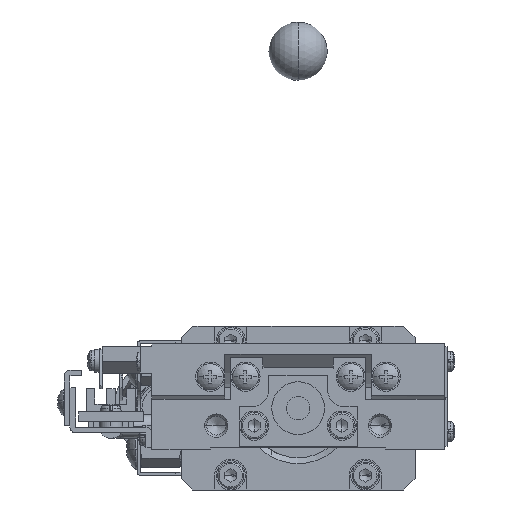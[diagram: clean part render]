
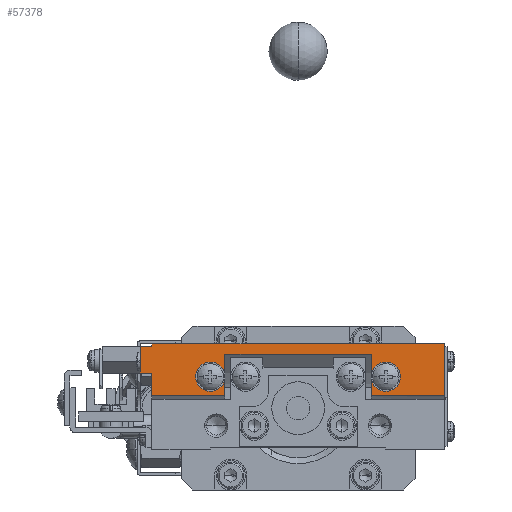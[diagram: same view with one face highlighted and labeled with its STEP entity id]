
A CAD part, left-side view. The second image highlights one B-rep face of the part: STEP entity #57378.
In plain terms, the highlighted planar face has unit normal (-1, 0, 0).
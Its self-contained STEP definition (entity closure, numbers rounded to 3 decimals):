
#1106 = LINE ( 'NONE', #28072, #57460 ) ;
#1721 = ORIENTED_EDGE ( 'NONE', *, *, #13536, .F. ) ;
#1806 = DIRECTION ( 'NONE',  ( 0., -1., 0. ) ) ;
#2682 = CARTESIAN_POINT ( 'NONE',  ( -58.014, 115.702, 120.81 ) ) ;
#2795 = ORIENTED_EDGE ( 'NONE', *, *, #6414, .F. ) ;
#2864 = DIRECTION ( 'NONE',  ( 0., -1., 0. ) ) ;
#3080 = VECTOR ( 'NONE', #1806, 1000. ) ;
#3099 = CARTESIAN_POINT ( 'NONE',  ( -58.014, 63.702, 125.81 ) ) ;
#3290 = ORIENTED_EDGE ( 'NONE', *, *, #28432, .F. ) ;
#3549 = DIRECTION ( 'NONE',  ( 0., -1., 0. ) ) ;
#4867 = AXIS2_PLACEMENT_3D ( 'NONE', #30090, #23915, #48368 ) ;
#5015 = VECTOR ( 'NONE', #32494, 1000. ) ;
#5205 = CARTESIAN_POINT ( 'NONE',  ( -58.014, 101.202, 124.029 ) ) ;
#5606 = VERTEX_POINT ( 'NONE', #15975 ) ;
#5914 = DIRECTION ( 'NONE',  ( 0., -1., 0. ) ) ;
#5993 = CIRCLE ( 'NONE', #9620, 2.5 ) ;
#6305 = LINE ( 'NONE', #68238, #24300 ) ;
#6414 = EDGE_CURVE ( 'NONE', #75526, #14244, #56818, .T. ) ;
#6808 = CARTESIAN_POINT ( 'NONE',  ( -58.014, 71.202, 120.174 ) ) ;
#8447 = CARTESIAN_POINT ( 'NONE',  ( -58.014, 115.702, 125.31 ) ) ;
#8537 = EDGE_CURVE ( 'NONE', #67537, #62705, #6305, .T. ) ;
#9563 = CIRCLE ( 'NONE', #10973, 2.5 ) ;
#9620 = AXIS2_PLACEMENT_3D ( 'NONE', #45377, #51844, #20105 ) ;
#9931 = CARTESIAN_POINT ( 'NONE',  ( -58.014, 76.202, 116.895 ) ) ;
#10973 = AXIS2_PLACEMENT_3D ( 'NONE', #13009, #45568, #20560 ) ;
#13009 = CARTESIAN_POINT ( 'NONE',  ( -58.014, 103.702, 120.174 ) ) ;
#13078 = VERTEX_POINT ( 'NONE', #6808 ) ;
#13130 = LINE ( 'NONE', #48398, #14199 ) ;
#13518 = EDGE_LOOP ( 'NONE', ( #3290, #38755, #27284, #66766, #1721, #18286, #77018, #21545, #57580, #2795, #80681, #41375, #72600, #37179, #22449, #79665, #44047, #60702 ) ) ;
#13536 = EDGE_CURVE ( 'NONE', #13078, #58002, #5993, .T. ) ;
#13994 = VECTOR ( 'NONE', #63559, 1000. ) ;
#14199 = VECTOR ( 'NONE', #36319, 1000. ) ;
#14244 = VERTEX_POINT ( 'NONE', #3099 ) ;
#14700 = LINE ( 'NONE', #54698, #37930 ) ;
#14929 = FACE_OUTER_BOUND ( 'NONE', #13518, .T. ) ;
#15089 = DIRECTION ( 'NONE',  ( -1., 0., 0. ) ) ;
#15383 = CARTESIAN_POINT ( 'NONE',  ( -58.014, 113.702, 125.31 ) ) ;
#15917 = VECTOR ( 'NONE', #2864, 1000. ) ;
#15975 = CARTESIAN_POINT ( 'NONE',  ( -58.014, 113.702, 116.895 ) ) ;
#17493 = EDGE_CURVE ( 'NONE', #37033, #58002, #1106, .T. ) ;
#17532 = CARTESIAN_POINT ( 'NONE',  ( -58.014, 76.202, 124.029 ) ) ;
#17996 = LINE ( 'NONE', #56823, #13994 ) ;
#18286 = ORIENTED_EDGE ( 'NONE', *, *, #25263, .F. ) ;
#18310 = EDGE_CURVE ( 'NONE', #59058, #37033, #81415, .T. ) ;
#20105 = DIRECTION ( 'NONE',  ( 0., -1., 0. ) ) ;
#20560 = DIRECTION ( 'NONE',  ( 0., -1., 0. ) ) ;
#20917 = EDGE_CURVE ( 'NONE', #5606, #67537, #14700, .T. ) ;
#21545 = ORIENTED_EDGE ( 'NONE', *, *, #30198, .T. ) ;
#21552 = DIRECTION ( 'NONE',  ( 0., -1., 0. ) ) ;
#22009 = CARTESIAN_POINT ( 'NONE',  ( -58.014, 70.702, 116.895 ) ) ;
#22449 = ORIENTED_EDGE ( 'NONE', *, *, #73814, .T. ) ;
#23915 = DIRECTION ( 'NONE',  ( -1., 0., 0. ) ) ;
#24115 = LINE ( 'NONE', #51294, #5015 ) ;
#24300 = VECTOR ( 'NONE', #68515, 1000. ) ;
#24419 = EDGE_CURVE ( 'NONE', #81821, #41858, #43490, .T. ) ;
#25263 = EDGE_CURVE ( 'NONE', #58002, #13078, #70348, .T. ) ;
#26927 = CARTESIAN_POINT ( 'NONE',  ( -58.014, 113.702, 125.81 ) ) ;
#27284 = ORIENTED_EDGE ( 'NONE', *, *, #18310, .T. ) ;
#27707 = VECTOR ( 'NONE', #42512, 1000. ) ;
#28072 = CARTESIAN_POINT ( 'NONE',  ( -58.014, 76.202, 125.81 ) ) ;
#28432 = EDGE_CURVE ( 'NONE', #62705, #42426, #41737, .T. ) ;
#28527 = VECTOR ( 'NONE', #79097, 1000. ) ;
#29482 = EDGE_CURVE ( 'NONE', #39585, #49542, #24115, .T. ) ;
#29743 = DIRECTION ( 'NONE',  ( 0., 0., 1. ) ) ;
#30090 = CARTESIAN_POINT ( 'NONE',  ( -58.014, 73.702, 120.174 ) ) ;
#30140 = AXIS2_PLACEMENT_3D ( 'NONE', #61246, #67716, #67998 ) ;
#30198 = EDGE_CURVE ( 'NONE', #45472, #81700, #67154, .T. ) ;
#32494 = DIRECTION ( 'NONE',  ( 0., -1., 0. ) ) ;
#33785 = CARTESIAN_POINT ( 'NONE',  ( -58.014, 101.202, 125.81 ) ) ;
#34753 = LINE ( 'NONE', #80958, #27707 ) ;
#35946 = CARTESIAN_POINT ( 'NONE',  ( -58.014, 76.202, 111.81 ) ) ;
#36319 = DIRECTION ( 'NONE',  ( 0., 0., -1. ) ) ;
#37033 = VERTEX_POINT ( 'NONE', #17532 ) ;
#37179 = ORIENTED_EDGE ( 'NONE', *, *, #29482, .T. ) ;
#37930 = VECTOR ( 'NONE', #3549, 1000. ) ;
#38755 = ORIENTED_EDGE ( 'NONE', *, *, #80708, .F. ) ;
#39585 = VERTEX_POINT ( 'NONE', #63644 ) ;
#41228 = CARTESIAN_POINT ( 'NONE',  ( -58.014, 76.202, 120.174 ) ) ;
#41375 = ORIENTED_EDGE ( 'NONE', *, *, #24419, .F. ) ;
#41428 = VECTOR ( 'NONE', #29743, 1000. ) ;
#41737 = CIRCLE ( 'NONE', #49777, 2.5 ) ;
#41858 = VERTEX_POINT ( 'NONE', #15383 ) ;
#42426 = VERTEX_POINT ( 'NONE', #67793 ) ;
#42512 = DIRECTION ( 'NONE',  ( 0., 0., -1. ) ) ;
#43490 = LINE ( 'NONE', #45219, #82587 ) ;
#44047 = ORIENTED_EDGE ( 'NONE', *, *, #8537, .T. ) ;
#44748 = VECTOR ( 'NONE', #64084, 1000. ) ;
#45219 = CARTESIAN_POINT ( 'NONE',  ( -58.014, 115.702, 125.31 ) ) ;
#45377 = CARTESIAN_POINT ( 'NONE',  ( -58.014, 73.702, 120.174 ) ) ;
#45472 = VERTEX_POINT ( 'NONE', #9931 ) ;
#45568 = DIRECTION ( 'NONE',  ( -1., 0., 0. ) ) ;
#46292 = CARTESIAN_POINT ( 'NONE',  ( -58.014, 113.702, 120.81 ) ) ;
#46905 = DIRECTION ( 'NONE',  ( 0., 0., -1. ) ) ;
#48368 = DIRECTION ( 'NONE',  ( 0., -1., 0. ) ) ;
#48398 = CARTESIAN_POINT ( 'NONE',  ( -58.014, 63.702, 125.81 ) ) ;
#49542 = VERTEX_POINT ( 'NONE', #46292 ) ;
#49777 = AXIS2_PLACEMENT_3D ( 'NONE', #59716, #15089, #21552 ) ;
#50620 = EDGE_CURVE ( 'NONE', #42426, #62705, #9563, .T. ) ;
#50889 = CARTESIAN_POINT ( 'NONE',  ( -58.014, 70.702, 125.81 ) ) ;
#51294 = CARTESIAN_POINT ( 'NONE',  ( -58.014, 115.702, 120.81 ) ) ;
#51844 = DIRECTION ( 'NONE',  ( -1., 0., 0. ) ) ;
#52842 = DIRECTION ( 'NONE',  ( 0., 0., -1. ) ) ;
#53501 = CARTESIAN_POINT ( 'NONE',  ( -58.014, 101.202, 120.174 ) ) ;
#54698 = CARTESIAN_POINT ( 'NONE',  ( -58.014, 113.702, 116.895 ) ) ;
#56637 = LINE ( 'NONE', #2682, #28527 ) ;
#56818 = LINE ( 'NONE', #50889, #44748 ) ;
#56823 = CARTESIAN_POINT ( 'NONE',  ( -58.014, 113.702, 125.81 ) ) ;
#57378 = ADVANCED_FACE ( 'NONE', ( #14929 ), #62102, .T. ) ;
#57460 = VECTOR ( 'NONE', #46905, 1000. ) ;
#57580 = ORIENTED_EDGE ( 'NONE', *, *, #68318, .F. ) ;
#58002 = VERTEX_POINT ( 'NONE', #41228 ) ;
#59058 = VERTEX_POINT ( 'NONE', #5205 ) ;
#59716 = CARTESIAN_POINT ( 'NONE',  ( -58.014, 103.702, 120.174 ) ) ;
#60702 = ORIENTED_EDGE ( 'NONE', *, *, #50620, .F. ) ;
#61246 = CARTESIAN_POINT ( 'NONE',  ( -58.014, 70.702, 125.81 ) ) ;
#62102 = PLANE ( 'NONE',  #30140 ) ;
#62705 = VERTEX_POINT ( 'NONE', #53501 ) ;
#63559 = DIRECTION ( 'NONE',  ( 0., 0., -1. ) ) ;
#63644 = CARTESIAN_POINT ( 'NONE',  ( -58.014, 115.702, 120.81 ) ) ;
#64084 = DIRECTION ( 'NONE',  ( 0., -1., 0. ) ) ;
#65384 = EDGE_CURVE ( 'NONE', #75526, #41858, #34753, .T. ) ;
#65606 = CARTESIAN_POINT ( 'NONE',  ( -58.014, 101.202, 124.029 ) ) ;
#66341 = EDGE_CURVE ( 'NONE', #39585, #81821, #56637, .T. ) ;
#66766 = ORIENTED_EDGE ( 'NONE', *, *, #17493, .T. ) ;
#67154 = LINE ( 'NONE', #22009, #15917 ) ;
#67524 = LINE ( 'NONE', #35946, #41428 ) ;
#67537 = VERTEX_POINT ( 'NONE', #74390 ) ;
#67599 = EDGE_CURVE ( 'NONE', #45472, #58002, #67524, .T. ) ;
#67716 = DIRECTION ( 'NONE',  ( -1., 0., 0. ) ) ;
#67793 = CARTESIAN_POINT ( 'NONE',  ( -58.014, 106.202, 120.174 ) ) ;
#67998 = DIRECTION ( 'NONE',  ( 0., 0., -1. ) ) ;
#68238 = CARTESIAN_POINT ( 'NONE',  ( -58.014, 101.202, 111.81 ) ) ;
#68318 = EDGE_CURVE ( 'NONE', #14244, #81700, #13130, .T. ) ;
#68515 = DIRECTION ( 'NONE',  ( 0., 0., 1. ) ) ;
#70249 = CARTESIAN_POINT ( 'NONE',  ( -58.014, 63.702, 116.895 ) ) ;
#70348 = CIRCLE ( 'NONE', #4867, 2.5 ) ;
#72600 = ORIENTED_EDGE ( 'NONE', *, *, #66341, .F. ) ;
#73814 = EDGE_CURVE ( 'NONE', #49542, #5606, #17996, .T. ) ;
#74390 = CARTESIAN_POINT ( 'NONE',  ( -58.014, 101.202, 116.895 ) ) ;
#75526 = VERTEX_POINT ( 'NONE', #26927 ) ;
#77018 = ORIENTED_EDGE ( 'NONE', *, *, #67599, .F. ) ;
#78130 = VECTOR ( 'NONE', #52842, 1000. ) ;
#79097 = DIRECTION ( 'NONE',  ( 0., 0., 1. ) ) ;
#79665 = ORIENTED_EDGE ( 'NONE', *, *, #20917, .T. ) ;
#80152 = LINE ( 'NONE', #33785, #78130 ) ;
#80681 = ORIENTED_EDGE ( 'NONE', *, *, #65384, .T. ) ;
#80708 = EDGE_CURVE ( 'NONE', #59058, #62705, #80152, .T. ) ;
#80958 = CARTESIAN_POINT ( 'NONE',  ( -58.014, 113.702, 125.81 ) ) ;
#81415 = LINE ( 'NONE', #65606, #3080 ) ;
#81700 = VERTEX_POINT ( 'NONE', #70249 ) ;
#81821 = VERTEX_POINT ( 'NONE', #8447 ) ;
#82587 = VECTOR ( 'NONE', #5914, 1000. ) ;
